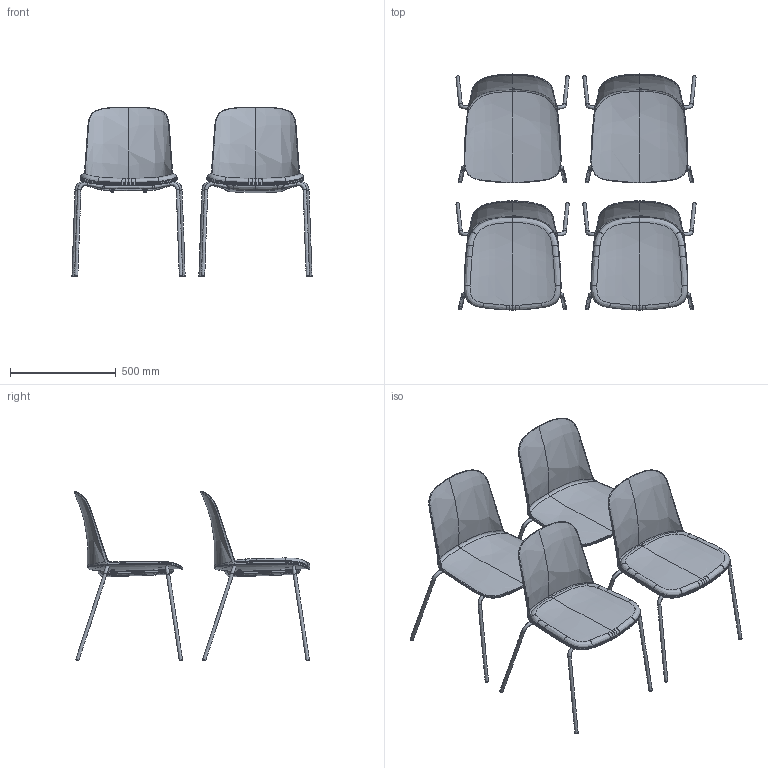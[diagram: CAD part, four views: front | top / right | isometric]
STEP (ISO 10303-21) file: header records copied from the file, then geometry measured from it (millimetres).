
FILE_DESCRIPTION(/* description */ (''),/* implementation_level */ '2;1');
FILE_NAME(/* name */ 'UNIX4G~2',/* time_stamp */ '2025-01-24T13:58:47+01:00',/* author */ (''),/* organization */ (''),/* preprocessor_version */ 'ST-DEVELOPER v16.5',/* originating_system */ '',/* authorisation */ '');
FILE_SCHEMA (('AUTOMOTIVE_DESIGN'));
Products named in the file (1): Document
Bounding box: 1135.37 x 1115.45 x 803.27 mm (x, y, z)
Volume: 20343970.9 mm3; surface area: 4752298 mm2
Topology: 43 solids, 45 shells, 1961 faces, 4356 edges, 2494 vertices
Faces by surface type: bspline 1757, plane 204
Entity records: 240880 total; most frequent: CARTESIAN_POINT 216317, ORIENTED_EDGE 8584, EDGE_CURVE 4312, VERTEX_POINT 2488, B_SPLINE_CURVE_WITH_KNOTS 2076, EDGE_LOOP 2032, ADVANCED_FACE 1960, FACE_OUTER_BOUND 1960
